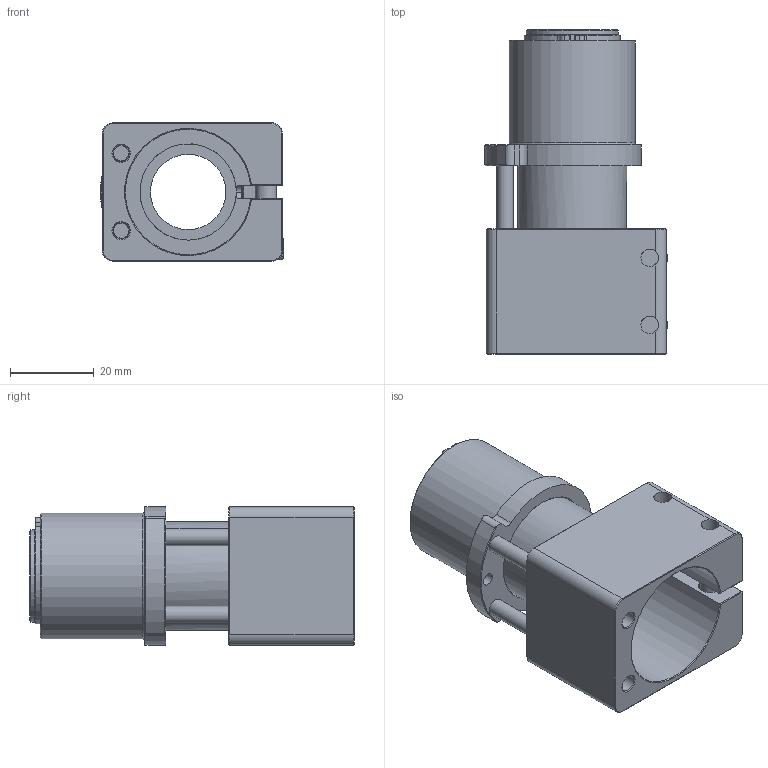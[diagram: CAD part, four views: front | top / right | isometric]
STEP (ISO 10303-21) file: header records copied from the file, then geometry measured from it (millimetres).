
FILE_DESCRIPTION(/* description */ (''),/* implementation_level */ '2;1');
FILE_NAME(/* name */ 'GSP-3030.stp',/* time_stamp */ '2022-06-28T10:28:41+08:00',/* author */ (''),/* organization */ (''),/* preprocessor_version */ 'ST-DEVELOPER v16',/* originating_system */ 'SIEMENS PLM Software NX 10.0',/* authorisation */ '');
FILE_SCHEMA (('AUTOMOTIVE_DESIGN { 1 0 10303 214 3 1 1 1 }'));
Length unit declared in the file: millimetre
Products named in the file (1): Admi2408D5D05y80
Bounding box: 43.69 x 77.5 x 33 mm (x, y, z)
Volume: 34658.9 mm3; surface area: 25853.4 mm2
Topology: 1 solids, 4 shells, 196 faces, 479 edges, 297 vertices
Faces by surface type: plane 110, cylinder 48, cone 28, bspline 7, torus 3
Full cylindrical faces by diameter (mm): 1.2 x2, 3 x1, 4 x6, 4.2 x2, 5 x2, 5.5 x2, 8.5 x2, 18 x1, 21 x1, 22 x3, 23 x1, 26 x2, 30 x1
Entity records: 8508 total; most frequent: CARTESIAN_POINT 2776, DIRECTION 895, ORIENTED_EDGE 830, EDGE_CURVE 415, AXIS2_PLACEMENT_3D 334, VERTEX_POINT 276, EDGE_LOOP 263, LINE 227
